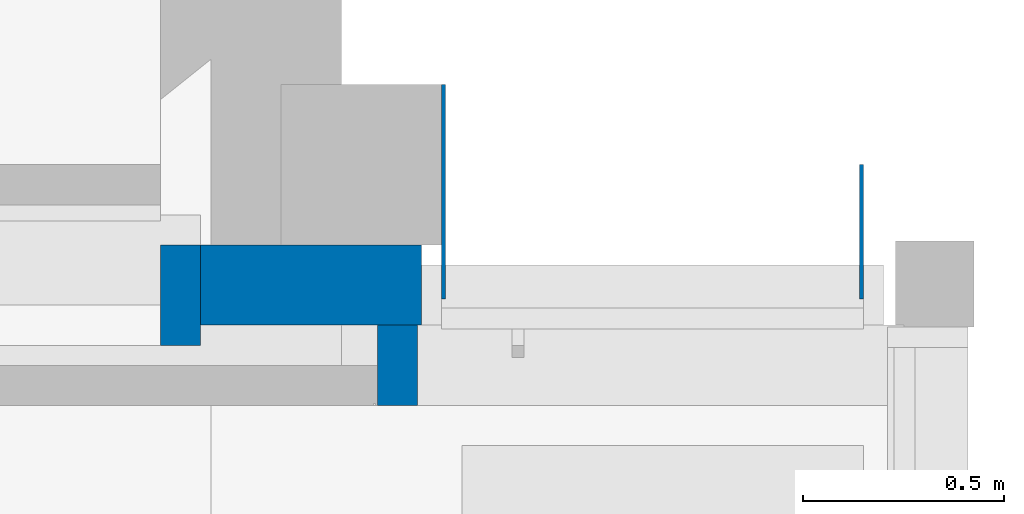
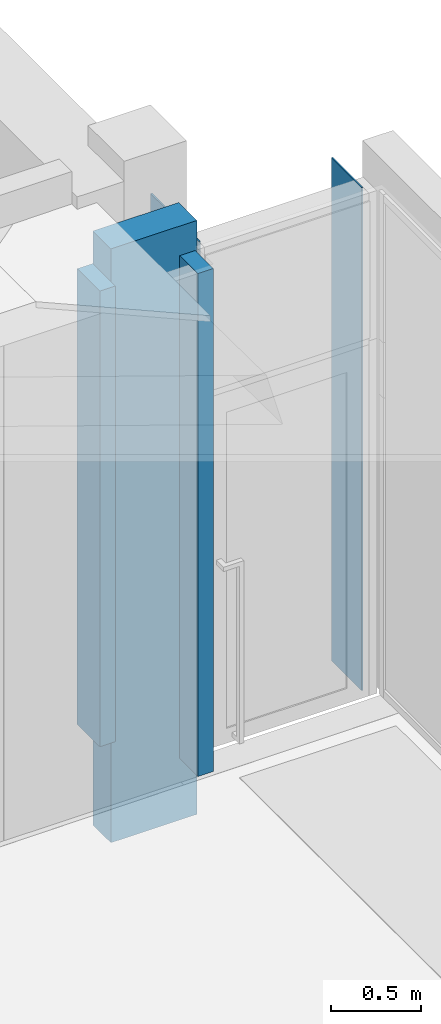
# One storey, part 18 of 77: 5 walls.
"""IFC2X3 building model written with IfcOpenShell, lengths in millimetres."""

import ifcopenshell
import ifcopenshell.guid

model = None  # the IFC model being written
_history = None  # IfcOwnerHistory: only IFC2X3 demands one
_inside = {}  # id of a spatial element -> (the spatial element, [elements in it])
_under = {}  # id of a project, library or spatial element -> (it, [spatial elements below it])
_declared = {}  # id of a project -> (the project, [libraries it declares])
_typed = {}  # id of a type object -> (the type object, [elements of that type])
_made_of = {}  # id of a material, layer set ... -> (it, [elements and type objects made of it])


def new_model(schema):
    """Start an empty IFC model of exactly this schema.

    Asked for "IFC4X3", IfcOpenShell would pick the latest addendum, in which some entities
    have other attributes; the version numbers below select the first issue.
    IFC2X3 requires an IfcOwnerHistory on every rooted entity: one is made here for all.
    """
    global model, _history
    if schema == "IFC4X3":
        model = ifcopenshell.file(schema_version=(4, 3, 0, 0))
    else:
        model = ifcopenshell.file(schema=schema)
    _inside.clear()
    _under.clear()
    _declared.clear()
    _typed.clear()
    _made_of.clear()
    _history = None
    if model.schema == "IFC2X3":
        org = make("IfcOrganization", Name="unknown")
        user = make(
            "IfcPersonAndOrganization",
            ThePerson=make("IfcPerson", FamilyName="unknown"),
            TheOrganization=org,
        )
        app = make(
            "IfcApplication",
            ApplicationDeveloper=org,
            Version="unknown",
            ApplicationFullName="unknown",
            ApplicationIdentifier="unknown",
        )
        _history = make(
            "IfcOwnerHistory",
            OwningUser=user,
            OwningApplication=app,
            ChangeAction="ADDED",
            CreationDate=0,
        )
    return model


def make(cls, **values):
    """One entity of the class cls with the attributes given. An attribute that is None is left unset."""
    return model.create_entity(
        cls, **{name: value for name, value in values.items() if value is not None}
    )


def entity(cls, *values):
    """Any entity or typed value of the class cls, its attributes in the order of the schema. None: left unset."""
    e = model.create_entity(cls)
    for i, value in enumerate(values):
        if value is not None:
            e[i] = value
    return e


def rooted(cls, **values):
    """An entity with a GlobalId (a new one), such as an element, a storey or a relation."""
    return make(cls, GlobalId=ifcopenshell.guid.new(), OwnerHistory=_history, **values)


def si_unit(unit_type, name, prefix=None):
    """IfcSIUnit, for example si_unit("LENGTHUNIT", "METRE", prefix="MILLI")."""
    return make("IfcSIUnit", UnitType=unit_type, Prefix=prefix, Name=name)


def converted_unit(unit_type, name, factor, base, dimensions=None, offset=None):
    """IfcConversionBasedUnit, such as the inch: factor (a typed value) times the base unit."""
    return make(
        "IfcConversionBasedUnit"
        if offset is None
        else "IfcConversionBasedUnitWithOffset",
        ConversionOffset=offset,
        Dimensions=None
        if dimensions is None
        else entity("IfcDimensionalExponents", *dimensions),
        UnitType=unit_type,
        Name=name,
        ConversionFactor=make(
            "IfcMeasureWithUnit", ValueComponent=factor, UnitComponent=base
        ),
    )


def derived_unit(unit_type, elements):
    """IfcDerivedUnit: a product of units, each with its exponent."""
    return make(
        "IfcDerivedUnit",
        Elements=[
            make("IfcDerivedUnitElement", Unit=unit, Exponent=power)
            for unit, power in elements
        ],
        UnitType=unit_type,
    )


def assignment(units):
    """IfcUnitAssignment: the units of a project."""
    return None if units is None else make("IfcUnitAssignment", Units=units)


def point(xyz):
    """IfcCartesianPoint."""
    return None if xyz is None else make("IfcCartesianPoint", Coordinates=xyz)


def direction(xyz):
    """IfcDirection."""
    return None if xyz is None else make("IfcDirection", DirectionRatios=xyz)


def frame(location, z_axis=None, x_axis=None):
    """IfcAxis2Placement3D, a coordinate frame: its origin and axes. An axis left out is left unset."""
    return make(
        "IfcAxis2Placement3D",
        Location=point(location),
        Axis=direction(z_axis),
        RefDirection=direction(x_axis),
    )


def frame_2d(location, x_axis=None):
    """IfcAxis2Placement2D, a coordinate frame in the plane: its origin and x axis."""
    return make(
        "IfcAxis2Placement2D", Location=point(location), RefDirection=direction(x_axis)
    )


def origin():
    """The frame at (0, 0, 0) with its axes left unset."""
    return frame((0.0, 0.0, 0.0))


def place(relative_to, where):
    """IfcLocalPlacement: puts the frame where relative to a parent placement (None: the world)."""
    return make(
        "IfcLocalPlacement", PlacementRelTo=relative_to, RelativePlacement=where
    )


def context(
    kind, dimensions, precision=None, world=None, true_north=None, identifier=None
):
    """IfcGeometricRepresentationContext, for example the 3D "Model" context."""
    return make(
        "IfcGeometricRepresentationContext",
        ContextIdentifier=identifier,
        ContextType=kind,
        CoordinateSpaceDimension=dimensions,
        Precision=precision,
        WorldCoordinateSystem=world,
        TrueNorth=true_north,
    )


def subcontext(parent, identifier, kind, view, scale=None):
    """IfcGeometricRepresentationSubContext, for example "Body" below "Model"."""
    return make(
        "IfcGeometricRepresentationSubContext",
        ContextIdentifier=identifier,
        ContextType=kind,
        ParentContext=parent,
        TargetScale=scale,
        TargetView=view,
    )


def project(units=None, contexts=None):
    """IfcProject with its units and contexts."""
    return rooted(
        "IfcProject",
        Name="project",
        RepresentationContexts=contexts,
        UnitsInContext=assignment(units),
    )


def spatial(cls, under=None, at=None, **own):
    """A site, building, storey or space (cls), placed at a placement, below another one or the project."""
    s = rooted(cls, ObjectPlacement=at, **own)
    if under is not None:
        _under.setdefault(under.id(), (under, []))[1].append(s)
    return s


def profile(cls, at=None, kind="AREA", **sizes):
    """A parametric profile (cls). Its sizes go by their IFC names, for example OverallWidth=200.0."""
    return make(cls, ProfileType=kind, Position=at, **sizes)


def rectangle(**sizes):
    """IfcRectangleProfileDef."""
    return profile("IfcRectangleProfileDef", **sizes)


def extrude(swept, where, along, depth):
    """IfcExtrudedAreaSolid: the profile swept, set in the frame where, extruded along a direction by depth."""
    return make(
        "IfcExtrudedAreaSolid",
        SweptArea=swept,
        Position=where,
        ExtrudedDirection=direction(along),
        Depth=depth,
    )


def shape(context_of_items, identifier, shape_type, items):
    """IfcShapeRepresentation: the items that make up one representation, for example the "Body"."""
    return make(
        "IfcShapeRepresentation",
        ContextOfItems=context_of_items,
        RepresentationIdentifier=identifier,
        RepresentationType=shape_type,
        Items=items,
    )


def material(Name=None, Category=None):
    """IfcMaterial."""
    return make("IfcMaterial", Name=Name, Category=Category)


def layer(
    of_material, thickness, ventilated=None, Name=None, Category=None, Priority=None
):
    """IfcMaterialLayer: one layer of a wall or slab, of a material (None: an air gap)."""
    return make(
        "IfcMaterialLayer",
        Material=of_material,
        LayerThickness=thickness,
        IsVentilated=ventilated,
        Name=Name,
        Category=Category,
        Priority=Priority,
    )


def layer_set(layers, Name=None):
    """IfcMaterialLayerSet."""
    return make("IfcMaterialLayerSet", MaterialLayers=layers, LayerSetName=Name)


def layer_usage(for_layer_set, set_direction, sense, offset, extent=None):
    """IfcMaterialLayerSetUsage: how a layer set lies in its element."""
    return make(
        "IfcMaterialLayerSetUsage",
        ForLayerSet=for_layer_set,
        LayerSetDirection=set_direction,
        DirectionSense=sense,
        OffsetFromReferenceLine=offset,
        ReferenceExtent=extent,
    )


def made_of(thing, what):
    """Note that an element or type object is made of a material, layer set ...; save() writes the relation."""
    if what is not None:
        _made_of.setdefault(what.id(), (what, []))[1].append(thing)
    return thing


def type_object(cls, material=None, **own):
    """A type object (cls), such as IfcWallType, which elements share."""
    return made_of(rooted(cls, **own), material)


def element(
    cls,
    number,
    at=None,
    inside=None,
    cuts=None,
    type_object=None,
    material=None,
    context=None,
    identifier="Body",
    shape_type=None,
    held_by="IfcProductDefinitionShape",
    body=None,
    shapes=None,
    **own,
):
    """One element of the class cls, such as IfcWall. Its Tag is "e" and its number.

    at: its placement. inside: the storey or other place that contains it. cuts: it is an
    opening in that element (IfcRelVoidsElement). A single representation is given by context,
    identifier, shape_type and body (its items); several are given by shapes. held_by: the class
    of the entity that holds the representations. save() writes the other relations.
    """
    e = rooted(cls, Tag="e%d" % number, ObjectPlacement=at, **own)
    if body is not None:
        shapes = [shape(context, identifier, shape_type, body)]
    if shapes is not None:
        e.Representation = make(held_by, Representations=shapes)
    if inside is not None:
        _inside.setdefault(inside.id(), (inside, []))[1].append(e)
    if cuts is not None:
        rooted(
            "IfcRelVoidsElement", RelatingBuildingElement=cuts, RelatedOpeningElement=e
        )
    if type_object is not None:
        _typed.setdefault(type_object.id(), (type_object, []))[1].append(e)
    return made_of(e, material)


def aggregate(whole, parts):
    """IfcRelAggregates: a whole, such as a stair, and the parts it consists of."""
    return rooted("IfcRelAggregates", RelatingObject=whole, RelatedObjects=parts)


def save(model, path):
    """Write the relations noted so far, then the file.

    IfcRelAggregates (storeys below a building ...), IfcRelContainedInSpatialStructure (elements
    in a storey), IfcRelDefinesByType, IfcRelAssociatesMaterial and IfcRelDeclares: one each for
    every whole, place, type object, material and project.
    """
    for whole, parts in _under.values():
        aggregate(whole, parts)
    for where, things in _inside.values():
        rooted(
            "IfcRelContainedInSpatialStructure",
            RelatedElements=things,
            RelatingStructure=where,
        )
    for kind, things in _typed.values():
        rooted("IfcRelDefinesByType", RelatedObjects=things, RelatingType=kind)
    for what, things in _made_of.values():
        rooted("IfcRelAssociatesMaterial", RelatedObjects=things, RelatingMaterial=what)
    for by, libraries in _declared.values():
        rooted("IfcRelDeclares", RelatingContext=by, RelatedDefinitions=libraries)
    model.write(path)


model = new_model("IFC2X3")

# Units and contexts
model_context = context("Model", 3, precision=0.01, world=origin(), true_north=direction((6.12303176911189e-17, 1.0)))
body_context = subcontext(model_context, "Body", "Model", "MODEL_VIEW")
ifc_project = project(units=[si_unit("LENGTHUNIT", "METRE", prefix="MILLI"), si_unit("AREAUNIT", "SQUARE_METRE"), si_unit("VOLUMEUNIT", "CUBIC_METRE"), converted_unit("PLANEANGLEUNIT", "DEGREE", entity("IfcRatioMeasure", 0.0174532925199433), si_unit("PLANEANGLEUNIT", "RADIAN"), dimensions=[0, 0, 0, 0, 0, 0, 0]), si_unit("MASSUNIT", "GRAM", prefix="KILO"), derived_unit("MASSDENSITYUNIT", [(si_unit("MASSUNIT", "GRAM", prefix="KILO"), 1), (si_unit("LENGTHUNIT", "METRE"), -3)]), si_unit("TIMEUNIT", "SECOND"), si_unit("FREQUENCYUNIT", "HERTZ"), si_unit("THERMODYNAMICTEMPERATUREUNIT", "DEGREE_CELSIUS"), derived_unit("THERMALTRANSMITTANCEUNIT", [(si_unit("MASSUNIT", "GRAM", prefix="KILO"), 1), (si_unit("THERMODYNAMICTEMPERATUREUNIT", "KELVIN"), -1), (si_unit("TIMEUNIT", "SECOND"), -3)]), derived_unit("VOLUMETRICFLOWRATEUNIT", [(si_unit("LENGTHUNIT", "METRE"), 3), (si_unit("TIMEUNIT", "SECOND"), -1)]), si_unit("ELECTRICCURRENTUNIT", "AMPERE"), si_unit("ELECTRICVOLTAGEUNIT", "VOLT"), si_unit("POWERUNIT", "WATT"), si_unit("FORCEUNIT", "NEWTON", prefix="KILO"), si_unit("ILLUMINANCEUNIT", "LUX"), si_unit("LUMINOUSFLUXUNIT", "LUMEN"), si_unit("LUMINOUSINTENSITYUNIT", "CANDELA"), derived_unit("USERDEFINED", [(si_unit("MASSUNIT", "GRAM", prefix="KILO"), -1), (si_unit("LENGTHUNIT", "METRE"), -2), (si_unit("TIMEUNIT", "SECOND"), 3), (si_unit("LUMINOUSFLUXUNIT", "LUMEN"), 1)]), derived_unit("LINEARVELOCITYUNIT", [(si_unit("LENGTHUNIT", "METRE"), 1), (si_unit("TIMEUNIT", "SECOND"), -1)]), si_unit("PRESSUREUNIT", "PASCAL"), derived_unit("USERDEFINED", [(si_unit("LENGTHUNIT", "METRE"), -2), (si_unit("MASSUNIT", "GRAM", prefix="KILO"), 1), (si_unit("TIMEUNIT", "SECOND"), -2)])], contexts=[model_context])

# Site, building, storey
site_placement = place(None, origin())
site = spatial("IfcSite", under=ifc_project, at=site_placement, Name="Default", CompositionType="ELEMENT")
building_placement = place(site_placement, origin())
building = spatial("IfcBuilding", under=site, at=building_placement, CompositionType="ELEMENT")
storey_placement = place(building_placement, origin())
storey = spatial("IfcBuildingStorey", under=building, at=storey_placement, Name="1. KORRUS", CompositionType="ELEMENT", Elevation=0.0)

# Walls
ifc_material_1 = material(Name="Must-al-komposiitplaat")
ifc_layer_1 = layer(ifc_material_1, 5.0)
ifc_material_2 = material(Name="Metal Stud Layer")
ifc_layer_2 = layer(ifc_material_2, 95.0)
ifc_layer_set_1 = layer_set([ifc_layer_1, ifc_layer_2], Name="Basic Wall:Alumiinium-komposiitplaat roovidel")
ifc_layer_usage_1 = layer_usage(ifc_layer_set_1, "AXIS2", "NEGATIVE", 50.0)
wall_type_1 = type_object("IfcWallType", Name="Basic Wall:Alumiinium-komposiitplaat roovidel", PredefinedType="STANDARD", material=ifc_layer_set_1)
wall_1_placement = place(storey_placement, frame((140.0, 12600.0, 0.0), z_axis=(0.0, 0.0, 1.0), x_axis=(0.0, -1.0, 0.0)))
element("IfcWallStandardCase", 1, at=wall_1_placement, inside=storey, type_object=wall_type_1, material=ifc_layer_usage_1, Name="Basic Wall:Alumiinium-komposiitplaat roovidel", ObjectType="Basic Wall:Alumiinium-komposiitplaat roovidel", context=body_context, shape_type="SweptSolid", body=[
    extrude(rectangle(XDim=199.999651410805, YDim=100.0, at=frame_2d((99.9998257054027, -7.105427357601e-15), x_axis=(-1.0, 0.0))), origin(), (0.0, 0.0, 1.0), 3400.0),
])
ifc_material_3 = material(Name="tsementkiudplaat")
ifc_layer_3 = layer(ifc_material_3, 10.0)
ifc_layer_set_2 = layer_set([ifc_layer_3], Name="Basic Wall:vs-tsementkiudplaat")
ifc_layer_usage_2 = layer_usage(ifc_layer_set_2, "AXIS2", "NEGATIVE", 5.0)
wall_type_2 = type_object("IfcWallType", Name="Basic Wall:vs-tsementkiudplaat", PredefinedType="STANDARD", material=ifc_layer_set_2)
wall_2_placement = place(storey_placement, frame((1295.0, 13000.0, 0.0), z_axis=(0.0, 0.0, 1.0), x_axis=(0.0, -1.0, 0.0)))
element("IfcWallStandardCase", 2, at=wall_2_placement, inside=storey, type_object=wall_type_2, material=ifc_layer_usage_2, Name="Basic Wall:vs-tsementkiudplaat", ObjectType="Basic Wall:vs-tsementkiudplaat", context=body_context, shape_type="SweptSolid", body=[
    extrude(rectangle(XDim=335.000000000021, YDim=9.99999999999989, at=frame_2d((167.500000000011, 0.0), x_axis=(-1.0, 0.0))), origin(), (0.0, 0.0, 1.0), 3400.0),
])
ifc_layer_usage_3 = layer_usage(ifc_layer_set_2, "AXIS2", "POSITIVE", -5.0)
wall_3_placement = place(storey_placement, frame((255.0, 13200.0, 0.0), z_axis=(0.0, 0.0, 1.0), x_axis=(0.0, -1.0, 0.0)))
element("IfcWallStandardCase", 3, at=wall_3_placement, inside=storey, type_object=wall_type_2, material=ifc_layer_usage_3, Name="Basic Wall:vs-tsementkiudplaat", ObjectType="Basic Wall:vs-tsementkiudplaat", context=body_context, shape_type="SweptSolid", body=[
    extrude(rectangle(XDim=535.000000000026, YDim=10.0, at=frame_2d((267.500000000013, 7.105427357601e-15), x_axis=(-1.0, 0.0))), origin(), (0.0, 0.0, 1.0), 3400.0),
])
ifc_material_4 = material(Name="Soojusisolatsioon PIR tuletõkkekattega")
ifc_layer_4 = layer(ifc_material_4, 200.0)
ifc_layer_set_3 = layer_set([ifc_layer_4], Name="Basic Wall:vs_mineraalvill 200mm")
ifc_layer_usage_4 = layer_usage(ifc_layer_set_3, "AXIS2", "NEGATIVE", 100.0)
wall_type_3 = type_object("IfcWallType", Name="Basic Wall:vs_mineraalvill 200mm", PredefinedType="STANDARD", material=ifc_layer_set_3)
wall_4_placement = place(storey_placement, frame((200.0, 12700.0, -415.0), z_axis=(0.0, 0.0, 1.0), x_axis=(-1.0, 0.0, 0.0)))
element("IfcWallStandardCase", 4, at=wall_4_placement, inside=storey, type_object=wall_type_3, material=ifc_layer_usage_4, Name="Basic Wall:vs_mineraalvill 200mm", ObjectType="Basic Wall:vs_mineraalvill 200mm", context=body_context, shape_type="SweptSolid", body=[
    extrude(rectangle(XDim=550.000000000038, YDim=199.999999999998, at=frame_2d((275.000000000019, -1.98951966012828e-13), x_axis=(-1.0, 0.0))), origin(), (0.0, 0.0, 1.0), 4015.0),
])
ifc_material_5 = material(Name="RECKLI 1 173 THUR by Polantis 2016-toon2")
ifc_layer_5 = layer(ifc_material_5, 100.0)
ifc_layer_set_4 = layer_set([ifc_layer_5], Name="Basic Wall:VS-1 koorik")
ifc_layer_usage_5 = layer_usage(ifc_layer_set_4, "AXIS2", "NEGATIVE", 50.0)
wall_type_4 = type_object("IfcWallType", Name="Basic Wall:VS-1 koorik", PredefinedType="STANDARD", material=ifc_layer_set_4)
wall_5_placement = place(storey_placement, frame((-400.0, 12800.0, 300.0), z_axis=(0.0, 0.0, 1.0), x_axis=(0.0, -1.0, 0.0)))
element("IfcWallStandardCase", 5, at=wall_5_placement, inside=storey, type_object=wall_type_4, material=ifc_layer_usage_5, Name="Basic Wall:VS-1 koorik", ObjectType="Basic Wall:VS-1 koorik", context=body_context, shape_type="SweptSolid", body=[
    extrude(rectangle(XDim=250.000000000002, YDim=100.0, at=frame_2d((125.000000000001, -3.5527136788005e-15), x_axis=(-1.0, 0.0))), origin(), (0.0, 0.0, 1.0), 3080.0),
])

save(model, "model.ifc")
